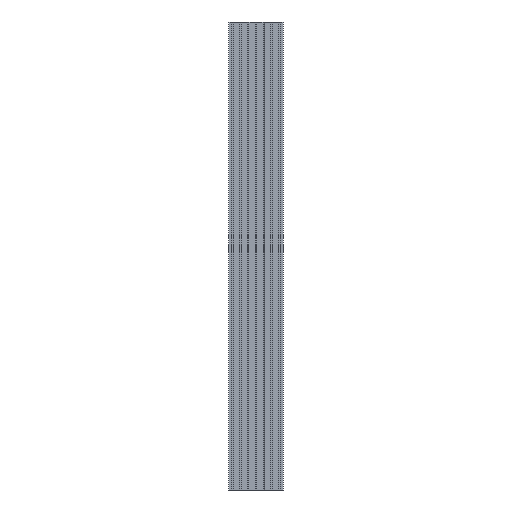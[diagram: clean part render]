
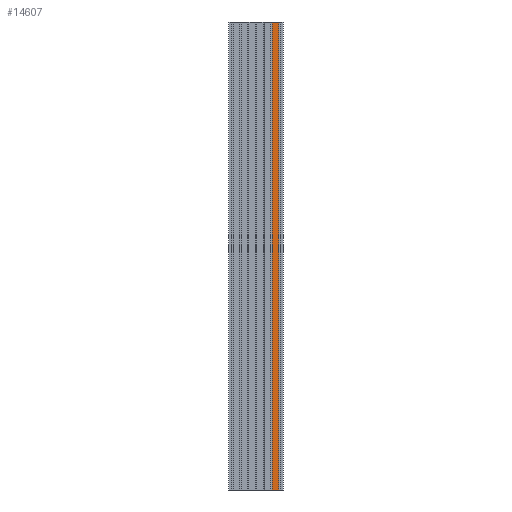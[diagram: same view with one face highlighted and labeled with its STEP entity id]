
A CAD part, front view. The second image highlights one B-rep face of the part: STEP entity #14607.
In plain terms, the highlighted planar face has unit normal (0, -1, 0).
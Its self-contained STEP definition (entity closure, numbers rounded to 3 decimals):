
#2156 = ORIENTED_EDGE ( 'NONE', *, *, #6684, .F. ) ;
#2157 = ORIENTED_EDGE ( 'NONE', *, *, #6687, .F. ) ;
#2158 = ORIENTED_EDGE ( 'NONE', *, *, #6677, .T. ) ;
#2159 = ORIENTED_EDGE ( 'NONE', *, *, #6686, .T. ) ;
#2922 = EDGE_LOOP ( 'NONE', ( #2156, #2157, #2158, #2159 ) ) ;
#4327 = CARTESIAN_POINT ( 'NONE',  ( 104.85, -20., -3000. ) ) ;
#4334 = PLANE ( 'NONE',  #8922 ) ;
#4336 = DIRECTION ( 'NONE',  ( 0., -1., 0. ) ) ;
#4337 = DIRECTION ( 'NONE',  ( 0., 0., -1. ) ) ;
#4991 = LINE ( 'NONE', #15321, #5080 ) ;
#4993 = VECTOR ( 'NONE', #15320, 1000. ) ;
#4994 = LINE ( 'NONE', #15315, #5006 ) ;
#5006 = VECTOR ( 'NONE', #15316, 1000. ) ;
#5080 = VECTOR ( 'NONE', #15322, 1000. ) ;
#5087 = LINE ( 'NONE', #15319, #4993 ) ;
#5973 = LINE ( 'NONE', #15301, #5976 ) ;
#5976 = VECTOR ( 'NONE', #15303, 1000. ) ;
#6677 = EDGE_CURVE ( 'NONE', #10805, #10814, #5973, .T. ) ;
#6684 = EDGE_CURVE ( 'NONE', #11529, #11275, #4994, .T. ) ;
#6686 = EDGE_CURVE ( 'NONE', #10814, #11275, #5087, .T. ) ;
#6687 = EDGE_CURVE ( 'NONE', #10805, #11529, #4991, .T. ) ;
#8922 = AXIS2_PLACEMENT_3D ( 'NONE', #4327, #4336, #4337 ) ;
#10805 = VERTEX_POINT ( 'NONE', #15221 ) ;
#10814 = VERTEX_POINT ( 'NONE', #15230 ) ;
#11275 = VERTEX_POINT ( 'NONE', #17663 ) ;
#11529 = VERTEX_POINT ( 'NONE', #21173 ) ;
#14607 = ADVANCED_FACE ( 'NONE', ( #20556 ), #4334, .T. ) ;
#15221 = CARTESIAN_POINT ( 'NONE',  ( 104.85, -20., -3000. ) ) ;
#15230 = CARTESIAN_POINT ( 'NONE',  ( 145.15, -20., -3000. ) ) ;
#15301 = CARTESIAN_POINT ( 'NONE',  ( 104.85, -20., -3000. ) ) ;
#15303 = DIRECTION ( 'NONE',  ( 1., 0., 0. ) ) ;
#15315 = CARTESIAN_POINT ( 'NONE',  ( 104.85, -20., 0. ) ) ;
#15316 = DIRECTION ( 'NONE',  ( 1., 0., 0. ) ) ;
#15319 = CARTESIAN_POINT ( 'NONE',  ( 145.15, -20., -3000. ) ) ;
#15320 = DIRECTION ( 'NONE',  ( 0., 0., 1. ) ) ;
#15321 = CARTESIAN_POINT ( 'NONE',  ( 104.85, -20., -3000. ) ) ;
#15322 = DIRECTION ( 'NONE',  ( 0., 0., 1. ) ) ;
#17663 = CARTESIAN_POINT ( 'NONE',  ( 145.15, -20., 0. ) ) ;
#20556 = FACE_OUTER_BOUND ( 'NONE', #2922, .T. ) ;
#21173 = CARTESIAN_POINT ( 'NONE',  ( 104.85, -20., 0. ) ) ;
